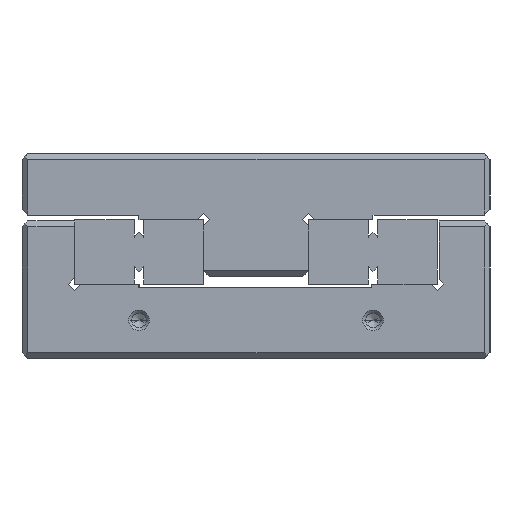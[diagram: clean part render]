
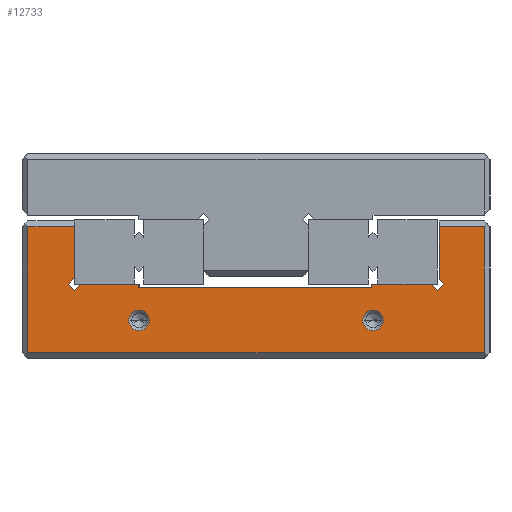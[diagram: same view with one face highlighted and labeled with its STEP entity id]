
A CAD part, left-side view. The second image highlights one B-rep face of the part: STEP entity #12733.
In plain terms, the highlighted planar face has unit normal (-1, 0, 0).
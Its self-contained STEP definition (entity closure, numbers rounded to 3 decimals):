
#9457=CARTESIAN_POINT('',(-102.5,-20.,6.5));
#9458=DIRECTION('',(1.,0.,0.));
#9459=DIRECTION('',(0.,-1.,0.));
#9460=AXIS2_PLACEMENT_3D('',#9457,#9458,#9459);
#9462=CARTESIAN_POINT('',(-102.5,-20.,6.5));
#9463=DIRECTION('',(1.,0.,0.));
#9464=DIRECTION('',(0.,1.,0.));
#9465=AXIS2_PLACEMENT_3D('',#9462,#9463,#9464);
#9467=DIRECTION('',(0.,-1.,0.));
#9468=VECTOR('',#9467,8.);
#9469=CARTESIAN_POINT('',(-102.5,39.,22.5));
#9470=LINE('',#9469,#9468);
#9471=DIRECTION('',(0.,0.,-1.));
#9472=VECTOR('',#9471,8.739);
#9473=CARTESIAN_POINT('',(-102.5,31.,22.5));
#9474=LINE('',#9473,#9472);
#9475=DIRECTION('',(0.,-0.707,0.707));
#9476=VECTOR('',#9475,1.5);
#9477=CARTESIAN_POINT('',(-102.5,32.061,12.7));
#9478=LINE('',#9477,#9476);
#9479=DIRECTION('',(0.,0.707,0.707));
#9480=VECTOR('',#9479,1.5);
#9481=CARTESIAN_POINT('',(-102.5,31.,11.639));
#9482=LINE('',#9481,#9480);
#9483=DIRECTION('',(0.,0.707,-0.707));
#9484=VECTOR('',#9483,1.5);
#9485=CARTESIAN_POINT('',(-102.5,29.939,12.7));
#9486=LINE('',#9485,#9484);
#9487=DIRECTION('',(0.,-1.,0.));
#9488=VECTOR('',#9487,9.939);
#9489=CARTESIAN_POINT('',(-102.5,29.939,12.7));
#9490=LINE('',#9489,#9488);
#9491=DIRECTION('',(0.,0.,-1.));
#9492=VECTOR('',#9491,0.6);
#9493=CARTESIAN_POINT('',(-102.5,20.,12.7));
#9494=LINE('',#9493,#9492);
#9495=DIRECTION('',(0.,-1.,0.));
#9496=VECTOR('',#9495,39.8);
#9497=CARTESIAN_POINT('',(-102.5,20.,12.1));
#9498=LINE('',#9497,#9496);
#9499=DIRECTION('',(0.,0.,1.));
#9500=VECTOR('',#9499,0.6);
#9501=CARTESIAN_POINT('',(-102.5,-19.8,12.1));
#9502=LINE('',#9501,#9500);
#9503=DIRECTION('',(0.,-1.,0.));
#9504=VECTOR('',#9503,10.139);
#9505=CARTESIAN_POINT('',(-102.5,-19.8,12.7));
#9506=LINE('',#9505,#9504);
#9507=DIRECTION('',(0.,0.707,0.707));
#9508=VECTOR('',#9507,1.5);
#9509=CARTESIAN_POINT('',(-102.5,-31.,11.639));
#9510=LINE('',#9509,#9508);
#9511=DIRECTION('',(0.,0.707,-0.707));
#9512=VECTOR('',#9511,1.5);
#9513=CARTESIAN_POINT('',(-102.5,-32.061,12.7));
#9514=LINE('',#9513,#9512);
#9515=DIRECTION('',(0.,-0.707,-0.707));
#9516=VECTOR('',#9515,1.076);
#9517=CARTESIAN_POINT('',(-102.5,-31.3,13.461));
#9518=LINE('',#9517,#9516);
#9519=DIRECTION('',(0.,0.,-1.));
#9520=VECTOR('',#9519,9.039);
#9521=CARTESIAN_POINT('',(-102.5,-31.3,22.5));
#9522=LINE('',#9521,#9520);
#9523=DIRECTION('',(0.,-1.,0.));
#9524=VECTOR('',#9523,7.7);
#9525=CARTESIAN_POINT('',(-102.5,-31.3,22.5));
#9526=LINE('',#9525,#9524);
#9527=DIRECTION('',(0.,0.,-1.));
#9528=VECTOR('',#9527,21.5);
#9529=CARTESIAN_POINT('',(-102.5,-39.,22.5));
#9530=LINE('',#9529,#9528);
#9531=DIRECTION('',(0.,1.,0.));
#9532=VECTOR('',#9531,78.);
#9533=CARTESIAN_POINT('',(-102.5,-39.,1.));
#9534=LINE('',#9533,#9532);
#9535=DIRECTION('',(0.,0.,-1.));
#9536=VECTOR('',#9535,21.5);
#9537=CARTESIAN_POINT('',(-102.5,39.,22.5));
#9538=LINE('',#9537,#9536);
#9539=CARTESIAN_POINT('',(-102.5,20.,6.5));
#9540=DIRECTION('',(1.,0.,0.));
#9541=DIRECTION('',(0.,-1.,0.));
#9542=AXIS2_PLACEMENT_3D('',#9539,#9540,#9541);
#9544=CARTESIAN_POINT('',(-102.5,20.,6.5));
#9545=DIRECTION('',(1.,0.,0.));
#9546=DIRECTION('',(0.,1.,0.));
#9547=AXIS2_PLACEMENT_3D('',#9544,#9545,#9546);
#11411=CARTESIAN_POINT('',(-102.5,20.,12.7));
#11412=CARTESIAN_POINT('',(-102.5,20.,12.1));
#11413=VERTEX_POINT('',#11411);
#11414=VERTEX_POINT('',#11412);
#11415=CARTESIAN_POINT('',(-102.5,-19.8,12.1));
#11416=VERTEX_POINT('',#11415);
#11417=CARTESIAN_POINT('',(-102.5,-19.8,12.7));
#11418=VERTEX_POINT('',#11417);
#11639=CARTESIAN_POINT('',(-102.5,-21.75,6.5));
#11640=CARTESIAN_POINT('',(-102.5,-18.25,6.5));
#11641=VERTEX_POINT('',#11639);
#11642=VERTEX_POINT('',#11640);
#11648=CARTESIAN_POINT('',(-102.5,31.,22.5));
#11650=VERTEX_POINT('',#11648);
#11651=CARTESIAN_POINT('',(-102.5,39.,22.5));
#11652=VERTEX_POINT('',#11651);
#11663=CARTESIAN_POINT('',(-102.5,-31.3,22.5));
#11665=VERTEX_POINT('',#11663);
#11669=CARTESIAN_POINT('',(-102.5,-39.,22.5));
#11670=VERTEX_POINT('',#11669);
#11671=CARTESIAN_POINT('',(-102.5,-39.,1.));
#11672=CARTESIAN_POINT('',(-102.5,39.,1.));
#11673=VERTEX_POINT('',#11671);
#11674=VERTEX_POINT('',#11672);
#11747=CARTESIAN_POINT('',(-102.5,18.25,6.5));
#11748=CARTESIAN_POINT('',(-102.5,21.75,6.5));
#11749=VERTEX_POINT('',#11747);
#11750=VERTEX_POINT('',#11748);
#12023=CARTESIAN_POINT('',(-102.5,-31.3,13.461));
#12024=CARTESIAN_POINT('',(-102.5,-32.061,12.7));
#12025=VERTEX_POINT('',#12023);
#12026=VERTEX_POINT('',#12024);
#12027=CARTESIAN_POINT('',(-102.5,-31.,11.639));
#12028=VERTEX_POINT('',#12027);
#12029=CARTESIAN_POINT('',(-102.5,-29.939,12.7));
#12030=VERTEX_POINT('',#12029);
#12031=CARTESIAN_POINT('',(-102.5,29.939,12.7));
#12032=CARTESIAN_POINT('',(-102.5,31.,11.639));
#12033=VERTEX_POINT('',#12031);
#12034=VERTEX_POINT('',#12032);
#12035=CARTESIAN_POINT('',(-102.5,32.061,12.7));
#12036=VERTEX_POINT('',#12035);
#12037=CARTESIAN_POINT('',(-102.5,31.,13.761));
#12038=VERTEX_POINT('',#12037);
#12682=CARTESIAN_POINT('',(-102.5,40.,0.));
#12683=DIRECTION('',(-1.,0.,0.));
#12684=DIRECTION('',(0.,-1.,0.));
#12685=AXIS2_PLACEMENT_3D('',#12682,#12683,#12684);
#12686=PLANE('',#12685);
#12688=ORIENTED_EDGE('',*,*,#12687,.T.);
#12690=ORIENTED_EDGE('',*,*,#12689,.T.);
#12692=ORIENTED_EDGE('',*,*,#12691,.F.);
#12694=ORIENTED_EDGE('',*,*,#12693,.F.);
#12696=ORIENTED_EDGE('',*,*,#12695,.F.);
#12698=ORIENTED_EDGE('',*,*,#12697,.T.);
#12700=ORIENTED_EDGE('',*,*,#12699,.T.);
#12701=ORIENTED_EDGE('',*,*,#12268,.T.);
#12702=ORIENTED_EDGE('',*,*,#12458,.T.);
#12703=ORIENTED_EDGE('',*,*,#12619,.T.);
#12704=ORIENTED_EDGE('',*,*,#12672,.F.);
#12706=ORIENTED_EDGE('',*,*,#12705,.F.);
#12708=ORIENTED_EDGE('',*,*,#12707,.F.);
#12710=ORIENTED_EDGE('',*,*,#12709,.F.);
#12712=ORIENTED_EDGE('',*,*,#12711,.T.);
#12714=ORIENTED_EDGE('',*,*,#12713,.T.);
#12716=ORIENTED_EDGE('',*,*,#12715,.T.);
#12718=ORIENTED_EDGE('',*,*,#12717,.F.);
#12719=EDGE_LOOP('',(#12688,#12690,#12692,#12694,#12696,#12698,#12700,#12701,
#12702,#12703,#12704,#12706,#12708,#12710,#12712,#12714,#12716,#12718));
#12720=FACE_OUTER_BOUND('',#12719,.F.);
#12722=ORIENTED_EDGE('',*,*,#12721,.F.);
#12724=ORIENTED_EDGE('',*,*,#12723,.F.);
#12725=EDGE_LOOP('',(#12722,#12724));
#12726=FACE_BOUND('',#12725,.F.);
#12728=ORIENTED_EDGE('',*,*,#12727,.F.);
#12730=ORIENTED_EDGE('',*,*,#12729,.F.);
#12731=EDGE_LOOP('',(#12728,#12730));
#12732=FACE_BOUND('',#12731,.F.);
#12733=ADVANCED_FACE('',(#12720,#12726,#12732),#12686,.T.);
#9461=CIRCLE('',#9460,1.75);
#9466=CIRCLE('',#9465,1.75);
#9543=CIRCLE('',#9542,1.75);
#9548=CIRCLE('',#9547,1.75);
#12268=EDGE_CURVE('',#11414,#11416,#9498,.T.);
#12458=EDGE_CURVE('',#11416,#11418,#9502,.T.);
#12619=EDGE_CURVE('',#11418,#12030,#9506,.T.);
#12672=EDGE_CURVE('',#12028,#12030,#9510,.T.);
#12687=EDGE_CURVE('',#11652,#11650,#9470,.T.);
#12689=EDGE_CURVE('',#11650,#12038,#9474,.T.);
#12691=EDGE_CURVE('',#12036,#12038,#9478,.T.);
#12693=EDGE_CURVE('',#12034,#12036,#9482,.T.);
#12695=EDGE_CURVE('',#12033,#12034,#9486,.T.);
#12697=EDGE_CURVE('',#12033,#11413,#9490,.T.);
#12699=EDGE_CURVE('',#11413,#11414,#9494,.T.);
#12705=EDGE_CURVE('',#12026,#12028,#9514,.T.);
#12707=EDGE_CURVE('',#12025,#12026,#9518,.T.);
#12709=EDGE_CURVE('',#11665,#12025,#9522,.T.);
#12711=EDGE_CURVE('',#11665,#11670,#9526,.T.);
#12713=EDGE_CURVE('',#11670,#11673,#9530,.T.);
#12715=EDGE_CURVE('',#11673,#11674,#9534,.T.);
#12717=EDGE_CURVE('',#11652,#11674,#9538,.T.);
#12721=EDGE_CURVE('',#11641,#11642,#9461,.T.);
#12723=EDGE_CURVE('',#11642,#11641,#9466,.T.);
#12727=EDGE_CURVE('',#11749,#11750,#9543,.T.);
#12729=EDGE_CURVE('',#11750,#11749,#9548,.T.);
